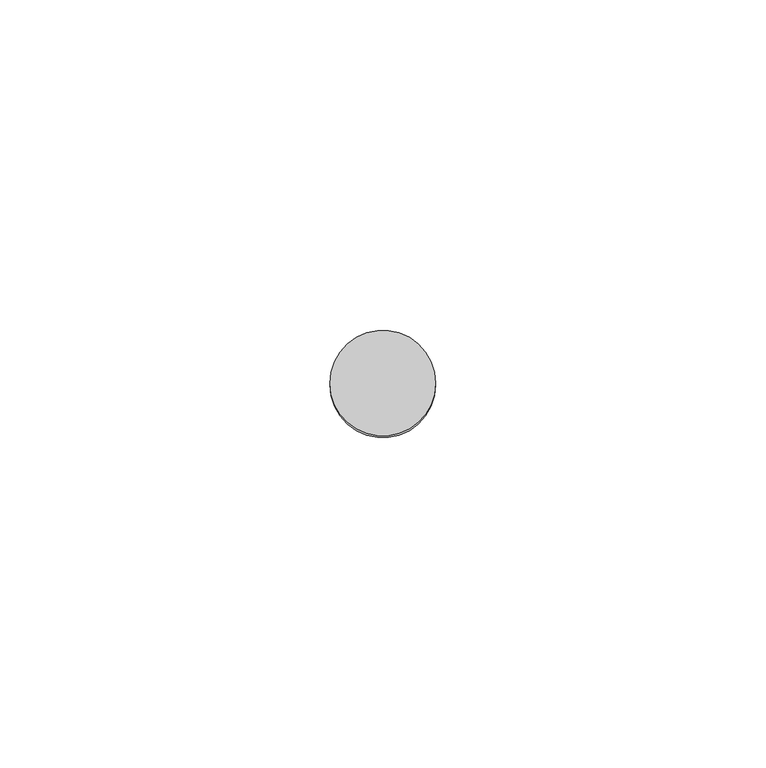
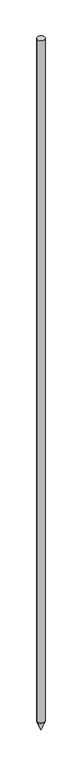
"""IFC4 building model written with IfcOpenShell, lengths in millimetres: proxy geometry, КНС_ЗаземлительВертикальный_DKC : NE1212_Горячеоцинкованная сталь_D16."""

from ifc_helpers import new_model, si_unit, point, origin, origin_with_axes, origin_2d, place, context, project, spatial, polyline, circle_curve, trimmed, segment, composite_curve, outline, extrude, source, transform, mapped, element, save
from ifc_brep_helpers import plane_surface, revolved_surface, advanced_brep


def security_devices_84849d59(model_context):
    return source(origin(), model_context, "Body", "SolidModel", [
        advanced_brep(
        [(0.0, 0.0, 0.0), (8.0, 0.0, 0.0), (-8.0, 0.0, 0.0), (0.0, 0.0, -20.0)],
        [
            (0, 1),
            (1, 2, circle_curve(origin_with_axes(), 8.0)),
            (2, 0),
            (2, 1, circle_curve(origin_with_axes(), 8.0)),
            (1, 3),
            (3, 2),
        ],
        [
            plane_surface(origin_with_axes()),
            revolved_surface(polyline([(0.0, 0.0, -20.0), (8.0, 0.0, 0.0)]), (0.0, 0.0, 2214.3150031), (0.0, 0.0, 1.0)),
        ],
        [
            (0, [[1, 2, 3]]),
            (0, [[-3, 4, -1]]),
            (1, [[-2, 5, 6]]),
            (1, [[-4, -6, -5]]),
        ],
    ),
        extrude(outline(composite_curve([segment(trimmed(circle_curve(origin_2d(), 8.0), [point((-8.0, 0.0))], [point((8.0, 0.0))], False, "CARTESIAN"), True, "CONTINUOUS"), segment(trimmed(circle_curve(origin_2d(), 8.0), [point((8.0, 0.0))], [point((-8.0, 0.0))], False, "CARTESIAN"), True, "CONTINUOUS")], self_intersect=False)), origin_with_axes(), (0.0, 0.0, 1.0), 1500.0),
    ])


if __name__ == "__main__":
    model = new_model("IFC4")
    model_context = context("Model", 3, world=origin())
    ifc_project = project(units=[si_unit("LENGTHUNIT", "METRE", prefix="MILLI")], contexts=[model_context])
    site = spatial("IfcSite", under=ifc_project)
    building = spatial("IfcBuilding", under=site)
    placement = place(None, origin())
    security_devices_shape = security_devices_84849d59(model_context)
    element("IfcBuildingElementProxy", 1, Name="КНС_ЗаземлительВертикальный_DKC : NE1212_Горячеоцинкованная сталь_D16", ObjectType="КНС_ЗаземлительВертикальный_DKC : NE1212_Горячеоцинкованная сталь_D16", at=placement, inside=building, context=model_context, shape_type="MappedRepresentation", body=[
        mapped(security_devices_shape, transform((0.0, 0.0, 0.0), x_axis=(1.0, 0.0, 0.0), y_axis=(0.0, 1.0, 0.0), z_axis=(0.0, 0.0, 1.0))),
    ])
    save(model, "model.ifc")
